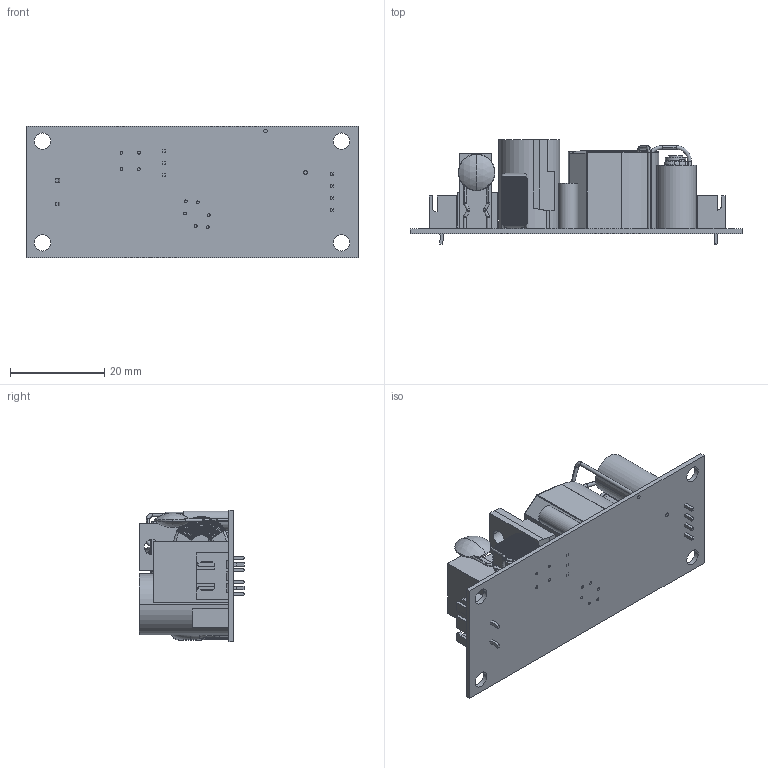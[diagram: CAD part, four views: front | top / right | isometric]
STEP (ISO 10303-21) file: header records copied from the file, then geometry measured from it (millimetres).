
FILE_DESCRIPTION (( 'STEP AP214' ), '1' );
FILE_NAME ('CFM25SXXX-T ²Õ¦X¥ó(01)-1060324.STEP', '2018-07-30T00:08:40', ( '' ), ( '' ), 'SwSTEP 2.0', 'SolidWorks 2017', '' );
FILE_SCHEMA (( 'AUTOMOTIVE_DESIGN' ));
Length unit declared in the file: millimetre
Products named in the file (12): CFM25SXXX-T PCB(01)-1060324; 3PIN插座(ECL25USXX-T); C陶瓷電容d8-1051118; CFM25SXXX-T 組合件(01)-1060324; (B)D4-1050901; CFM25變壓器(參考); 電晶體10mm; P2 4PIN插座-old; CFM25 L5; CFM25 CY4 105,09,01; D4-1050901; CFM25 CORE
Assembly tree (12 placements, depth 2):
  CFM25SXXX-T 組合件(01)-1060324
    CFM25SXXX-T PCB(01)-1060324
    電晶體10mm
    CFM25 CORE
    D4-1050901
    C陶瓷電容d8-1051118
    CFM25變壓器(參考)
    CFM25 CY4 105,09,01  x2
    (B)D4-1050901
    CFM25 L5
    3PIN插座(ECL25USXX-T)
    P2 4PIN插座-old
Bounding box: 70.5 x 22.3 x 27.94 mm (x, y, z)
Volume: 13872.7 mm3; surface area: 14233.4 mm2
Topology: 16 solids, 16 shells, 2913 faces, 7966 edges, 4864 vertices
Faces by surface type: bspline 1254, cylinder 1200, plane 409, torus 46, sphere 4
Entity records: 135159 total; most frequent: CARTESIAN_POINT 39409, ORIENTED_EDGE 15814, DIRECTION 14841, EDGE_CURVE 7907, AXIS2_PLACEMENT_3D 6338, VERTEX_POINT 4832, CIRCLE 4684, EDGE_LOOP 2937
